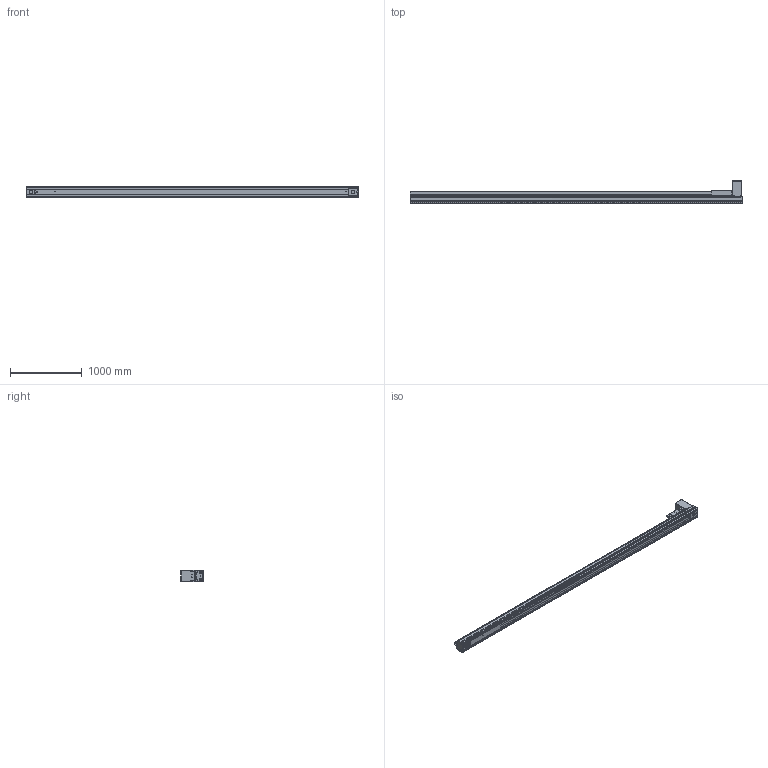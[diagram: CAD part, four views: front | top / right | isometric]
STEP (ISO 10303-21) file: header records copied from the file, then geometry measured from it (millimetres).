
FILE_DESCRIPTION((''),'2;1');
FILE_NAME('BE50G-BT-L19N-X05_IGS_PRT','2017-06-18T',(' '),(''),'PRO/ENGINEER BY PARAMETRIC TECHNOLOGY CORPORATION, 2015030','PRO/ENGINEER BY PARAMETRIC TECHNOLOGY CORPORATION, 2015030','');
FILE_SCHEMA(('CONFIG_CONTROL_DESIGN'));
Products named in the file (1): BE50G-BT-L19N-X05_IGS_PRT
Bounding box: 4620 x 309 x 160 mm (x, y, z)
Volume: 18526343.2 mm3; surface area: 9044475.6 mm2
Topology: 10 solids, 395 shells, 2395 faces, 7371 edges, 5048 vertices
Faces by surface type: cylinder 1425, plane 699, cone 228, sphere 23, torus 20
Entity records: 86858 total; most frequent: CARTESIAN_POINT 20184, DIRECTION 13948, ORIENTED_EDGE 13322, EDGE_CURVE 7297, AXIS2_PLACEMENT_3D 5342, VERTEX_POINT 5048, VECTOR 3264, LINE 3264
